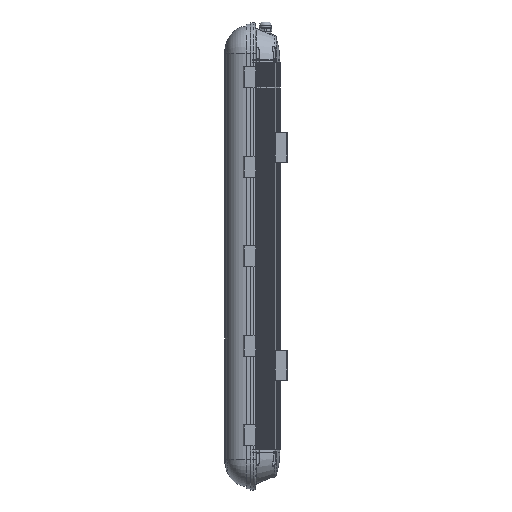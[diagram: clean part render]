
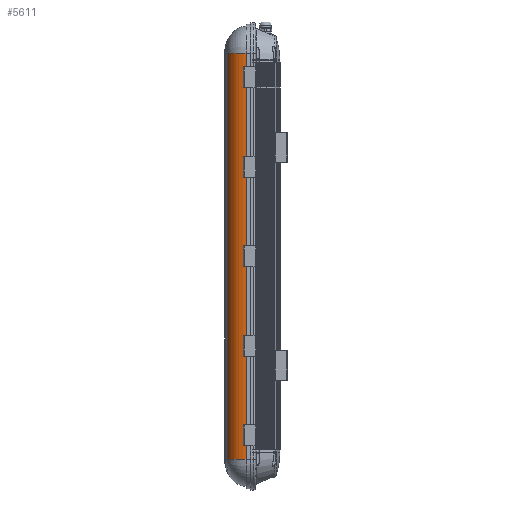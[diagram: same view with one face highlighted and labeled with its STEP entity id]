
A CAD part, left-side view. The second image highlights one B-rep face of the part: STEP entity #5611.
In plain terms, the highlighted cylindrical face has radius 27.041 mm (diameter 54.082 mm), a partial arc.
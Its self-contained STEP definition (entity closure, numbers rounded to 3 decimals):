
#5611=ADVANCED_FACE('',(#12794),#12796,.T.);
#12794=FACE_BOUND('',#12795,.T.);
#12795=EDGE_LOOP('',(#40824,#40825,#40826,#40827));
#12796=CYLINDRICAL_SURFACE('',#12797,27.041);
#12797=AXIS2_PLACEMENT_3D('',#12798,#12799,#12800);
#12798=CARTESIAN_POINT('',(-15.326,-1.785,-418.));
#12799=DIRECTION('',(0.,0.,1.));
#12800=DIRECTION('',(-0.359,0.933,0.));
#40824=ORIENTED_EDGE('',*,*,#45250,.T.);
#40825=ORIENTED_EDGE('',*,*,#45251,.T.);
#40826=ORIENTED_EDGE('',*,*,#45252,.F.);
#40827=ORIENTED_EDGE('',*,*,#45245,.F.);
#45245=EDGE_CURVE('',#48666,#48668,#48669,.T.);
#45250=EDGE_CURVE('',#48666,#48676,#48677,.T.);
#45251=EDGE_CURVE('',#48676,#48678,#48679,.F.);
#45252=EDGE_CURVE('',#48668,#48678,#48680,.T.);
#48666=VERTEX_POINT('',#56434);
#48668=VERTEX_POINT('',#56443);
#48669=LINE('',#56444,#56445);
#48676=VERTEX_POINT('',#56516);
#48677=CIRCLE('',#56517,27.041);
#48678=VERTEX_POINT('',#56521);
#48679=LINE('',#56522,#56523);
#48680=CIRCLE('',#56525,27.041);
#56434=CARTESIAN_POINT('',(-25.041,23.45,-418.));
#56443=CARTESIAN_POINT('',(-25.041,23.45,103.));
#56444=CARTESIAN_POINT('',(-25.041,23.45,-418.));
#56445=VECTOR('',#56446,1.);
#56446=DIRECTION('',(0.,0.,1.));
#56516=CARTESIAN_POINT('',(-42.308,0.,-418.));
#56517=AXIS2_PLACEMENT_3D('',#56518,#56519,#56520);
#56518=CARTESIAN_POINT('',(-15.326,-1.785,-418.));
#56519=DIRECTION('',(0.,0.,1.));
#56520=DIRECTION('',(-0.359,0.933,0.));
#56521=CARTESIAN_POINT('',(-42.308,0.,103.));
#56522=CARTESIAN_POINT('',(-42.308,0.,103.));
#56523=VECTOR('',#56524,1.);
#56524=DIRECTION('',(0.,0.,-1.));
#56525=AXIS2_PLACEMENT_3D('',#56526,#56527,#56528);
#56526=CARTESIAN_POINT('',(-15.326,-1.785,103.));
#56527=DIRECTION('',(0.,0.,1.));
#56528=DIRECTION('',(-0.359,0.933,0.));
